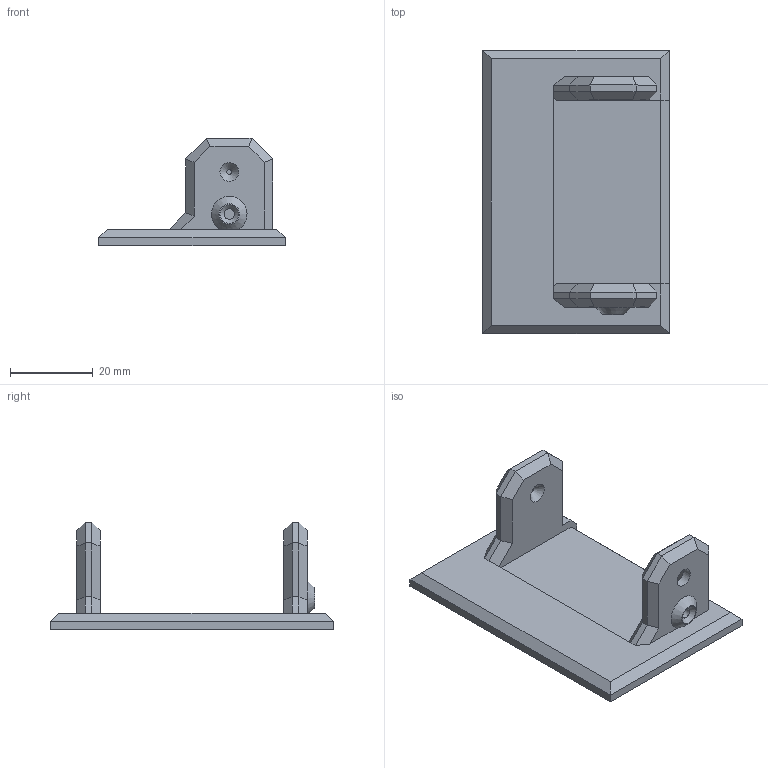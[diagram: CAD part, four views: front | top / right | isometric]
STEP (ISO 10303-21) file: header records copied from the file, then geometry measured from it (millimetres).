
FILE_DESCRIPTION(/* description */ (''),/* implementation_level */ '2;1');
FILE_NAME(/* name */ 'Lumi_LeftFoot.step',/* time_stamp */ '2025-06-14T15:57:21+05:30',/* author */ (''),/* organization */ (''),/* preprocessor_version */ 'ST-DEVELOPER v20.1',/* originating_system */ 'Autodesk Translation Framework v14.10.0.0',/* authorisation */ '');
FILE_SCHEMA (('AUTOMOTIVE_DESIGN { 1 0 10303 214 3 1 1 }'));
Length unit declared in the file: millimetre
Products named in the file (1): Left Foot
Bounding box: 45 x 68.4 x 26 mm (x, y, z)
Volume: 13543 mm3; surface area: 8999.9 mm2
Topology: 1 solids, 1 shells, 68 faces, 164 edges, 99 vertices
Faces by surface type: plane 61, cylinder 4, cone 3
Full cylindrical faces by diameter (mm): 2.5 x1, 4.54 x1
Entity records: 1957 total; most frequent: CARTESIAN_POINT 335, ORIENTED_EDGE 328, DIRECTION 317, EDGE_CURVE 164, LINE 147, VECTOR 147, VERTEX_POINT 99, AXIS2_PLACEMENT_3D 85
